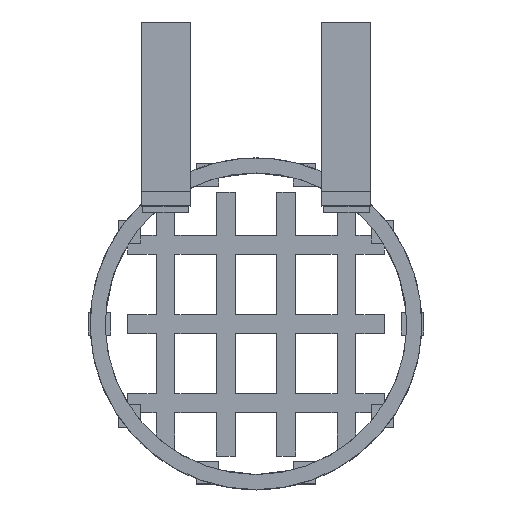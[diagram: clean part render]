
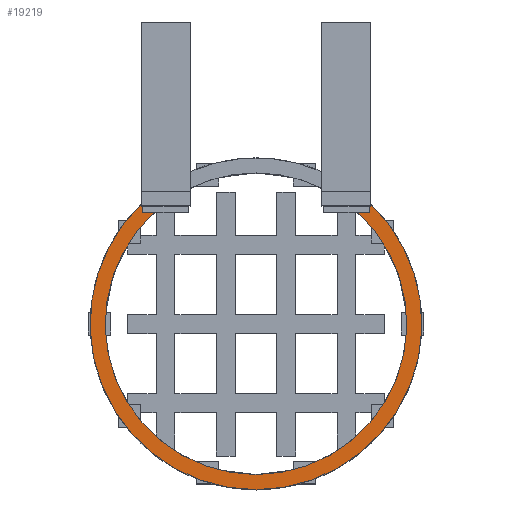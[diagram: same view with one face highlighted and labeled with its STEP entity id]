
A CAD part, top view. The second image highlights one B-rep face of the part: STEP entity #19219.
In plain terms, the highlighted planar face has unit normal (0, 0, 1).
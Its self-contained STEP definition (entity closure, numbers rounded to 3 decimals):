
#33 = CYLINDRICAL_SURFACE('',#34,44.);
#34 = AXIS2_PLACEMENT_3D('',#35,#36,#37);
#35 = CARTESIAN_POINT('',(0.,-118.,-9.));
#36 = DIRECTION('',(-0.,-0.,-1.));
#37 = DIRECTION('',(1.,0.,0.));
#171 = VERTEX_POINT('',#172);
#172 = CARTESIAN_POINT('',(30.,-85.813,-2.));
#185 = PLANE('',#186);
#186 = AXIS2_PLACEMENT_3D('',#187,#188,#189);
#187 = CARTESIAN_POINT('',(30.,-88.5,-19.5));
#188 = DIRECTION('',(1.,0.,0.));
#189 = DIRECTION('',(0.,0.,1.));
#197 = EDGE_CURVE('',#171,#198,#200,.T.);
#198 = VERTEX_POINT('',#199);
#199 = CARTESIAN_POINT('',(-30.,-85.813,-2.));
#200 = SURFACE_CURVE('',#201,(#206,#213),.PCURVE_S1.);
#201 = CIRCLE('',#202,44.);
#202 = AXIS2_PLACEMENT_3D('',#203,#204,#205);
#203 = CARTESIAN_POINT('',(0.,-118.,-2.));
#204 = DIRECTION('',(0.,0.,-1.));
#205 = DIRECTION('',(0.682,0.732,0.));
#206 = PCURVE('',#33,#207);
#207 = DEFINITIONAL_REPRESENTATION('',(#208),#212);
#208 = LINE('',#209,#210);
#209 = CARTESIAN_POINT('',(-0.821,-7.));
#210 = VECTOR('',#211,1.);
#211 = DIRECTION('',(1.,-0.));
#212 = ( GEOMETRIC_REPRESENTATION_CONTEXT(2) 
PARAMETRIC_REPRESENTATION_CONTEXT() REPRESENTATION_CONTEXT('2D SPACE',''
  ) );
#213 = PCURVE('',#214,#219);
#214 = PLANE('',#215);
#215 = AXIS2_PLACEMENT_3D('',#216,#217,#218);
#216 = CARTESIAN_POINT('',(0.,-118.,-2.));
#217 = DIRECTION('',(0.,0.,1.));
#218 = DIRECTION('',(1.,0.,-0.));
#219 = DEFINITIONAL_REPRESENTATION('',(#220),#228);
#220 = ( BOUNDED_CURVE() B_SPLINE_CURVE(2,(#221,#222,#223,#224,#225,#226
,#227),.UNSPECIFIED.,.T.,.F.) B_SPLINE_CURVE_WITH_KNOTS((1,2,2,2,2,1),(
    -2.094,0.,2.094,4.189,6.283,
8.378),.UNSPECIFIED.) CURVE() GEOMETRIC_REPRESENTATION_ITEM() 
RATIONAL_B_SPLINE_CURVE((1.,0.5,1.,0.5,1.,0.5,1.)) REPRESENTATION_ITEM(
  '') );
#221 = CARTESIAN_POINT('',(30.,32.187));
#222 = CARTESIAN_POINT('',(85.749,-19.775));
#223 = CARTESIAN_POINT('',(12.875,-42.074));
#224 = CARTESIAN_POINT('',(-60.,-64.374));
#225 = CARTESIAN_POINT('',(-42.875,9.887));
#226 = CARTESIAN_POINT('',(-25.749,84.148));
#227 = CARTESIAN_POINT('',(30.,32.187));
#228 = ( GEOMETRIC_REPRESENTATION_CONTEXT(2) 
PARAMETRIC_REPRESENTATION_CONTEXT() REPRESENTATION_CONTEXT('2D SPACE',''
  ) );
#245 = PLANE('',#246);
#246 = AXIS2_PLACEMENT_3D('',#247,#248,#249);
#247 = CARTESIAN_POINT('',(-30.,-88.5,-19.5));
#248 = DIRECTION('',(1.,0.,0.));
#249 = DIRECTION('',(0.,0.,1.));
#1143 = CYLINDRICAL_SURFACE('',#1144,40.);
#1144 = AXIS2_PLACEMENT_3D('',#1145,#1146,#1147);
#1145 = CARTESIAN_POINT('',(0.,-118.,-9.));
#1146 = DIRECTION('',(-0.,-0.,-1.));
#1147 = DIRECTION('',(1.,0.,0.));
#9907 = PLANE('',#9908);
#9908 = AXIS2_PLACEMENT_3D('',#9909,#9910,#9911);
#9909 = CARTESIAN_POINT('',(-30.,-88.5,-19.5));
#9910 = DIRECTION('',(0.,1.,0.));
#9911 = DIRECTION('',(0.,-0.,1.));
#10015 = VERTEX_POINT('',#10016);
#10016 = CARTESIAN_POINT('',(-27.014,-88.5,-2.));
#10036 = EDGE_CURVE('',#10015,#10037,#10039,.T.);
#10037 = VERTEX_POINT('',#10038);
#10038 = CARTESIAN_POINT('',(-30.,-88.5,-2.));
#10039 = SURFACE_CURVE('',#10040,(#10044,#10051),.PCURVE_S1.);
#10040 = LINE('',#10041,#10042);
#10041 = CARTESIAN_POINT('',(-15.,-88.5,-2.));
#10042 = VECTOR('',#10043,1.);
#10043 = DIRECTION('',(-1.,0.,0.));
#10044 = PCURVE('',#9907,#10045);
#10045 = DEFINITIONAL_REPRESENTATION('',(#10046),#10050);
#10046 = LINE('',#10047,#10048);
#10047 = CARTESIAN_POINT('',(17.5,15.));
#10048 = VECTOR('',#10049,1.);
#10049 = DIRECTION('',(0.,-1.));
#10050 = ( GEOMETRIC_REPRESENTATION_CONTEXT(2) 
PARAMETRIC_REPRESENTATION_CONTEXT() REPRESENTATION_CONTEXT('2D SPACE',''
  ) );
#10051 = PCURVE('',#214,#10052);
#10052 = DEFINITIONAL_REPRESENTATION('',(#10053),#10057);
#10053 = LINE('',#10054,#10055);
#10054 = CARTESIAN_POINT('',(-15.,29.5));
#10055 = VECTOR('',#10056,1.);
#10056 = DIRECTION('',(-1.,0.));
#10057 = ( GEOMETRIC_REPRESENTATION_CONTEXT(2) 
PARAMETRIC_REPRESENTATION_CONTEXT() REPRESENTATION_CONTEXT('2D SPACE',''
  ) );
#11895 = PLANE('',#11896);
#11896 = AXIS2_PLACEMENT_3D('',#11897,#11898,#11899);
#11897 = CARTESIAN_POINT('',(18.,-88.5,-19.5));
#11898 = DIRECTION('',(0.,1.,0.));
#11899 = DIRECTION('',(0.,-0.,1.));
#12008 = VERTEX_POINT('',#12009);
#12009 = CARTESIAN_POINT('',(30.,-88.5,-2.));
#12030 = EDGE_CURVE('',#12008,#12031,#12033,.T.);
#12031 = VERTEX_POINT('',#12032);
#12032 = CARTESIAN_POINT('',(27.014,-88.5,-2.));
#12033 = SURFACE_CURVE('',#12034,(#12038,#12045),.PCURVE_S1.);
#12034 = LINE('',#12035,#12036);
#12035 = CARTESIAN_POINT('',(9.,-88.5,-2.));
#12036 = VECTOR('',#12037,1.);
#12037 = DIRECTION('',(-1.,0.,0.));
#12038 = PCURVE('',#11895,#12039);
#12039 = DEFINITIONAL_REPRESENTATION('',(#12040),#12044);
#12040 = LINE('',#12041,#12042);
#12041 = CARTESIAN_POINT('',(17.5,-9.));
#12042 = VECTOR('',#12043,1.);
#12043 = DIRECTION('',(0.,-1.));
#12044 = ( GEOMETRIC_REPRESENTATION_CONTEXT(2) 
PARAMETRIC_REPRESENTATION_CONTEXT() REPRESENTATION_CONTEXT('2D SPACE',''
  ) );
#12045 = PCURVE('',#214,#12046);
#12046 = DEFINITIONAL_REPRESENTATION('',(#12047),#12051);
#12047 = LINE('',#12048,#12049);
#12048 = CARTESIAN_POINT('',(9.,29.5));
#12049 = VECTOR('',#12050,1.);
#12050 = DIRECTION('',(-1.,0.));
#12051 = ( GEOMETRIC_REPRESENTATION_CONTEXT(2) 
PARAMETRIC_REPRESENTATION_CONTEXT() REPRESENTATION_CONTEXT('2D SPACE',''
  ) );
#18727 = EDGE_CURVE('',#12031,#10015,#18728,.T.);
#18728 = SURFACE_CURVE('',#18729,(#18734,#18741),.PCURVE_S1.);
#18729 = CIRCLE('',#18730,40.);
#18730 = AXIS2_PLACEMENT_3D('',#18731,#18732,#18733);
#18731 = CARTESIAN_POINT('',(0.,-118.,-2.));
#18732 = DIRECTION('',(0.,0.,-1.));
#18733 = DIRECTION('',(0.675,0.738,0.));
#18734 = PCURVE('',#1143,#18735);
#18735 = DEFINITIONAL_REPRESENTATION('',(#18736),#18740);
#18736 = LINE('',#18737,#18738);
#18737 = CARTESIAN_POINT('',(-0.829,-7.));
#18738 = VECTOR('',#18739,1.);
#18739 = DIRECTION('',(1.,-0.));
#18740 = ( GEOMETRIC_REPRESENTATION_CONTEXT(2) 
PARAMETRIC_REPRESENTATION_CONTEXT() REPRESENTATION_CONTEXT('2D SPACE',''
  ) );
#18741 = PCURVE('',#214,#18742);
#18742 = DEFINITIONAL_REPRESENTATION('',(#18743),#18751);
#18743 = ( BOUNDED_CURVE() B_SPLINE_CURVE(2,(#18744,#18745,#18746,#18747
    ,#18748,#18749,#18750),.UNSPECIFIED.,.T.,.F.) 
B_SPLINE_CURVE_WITH_KNOTS((1,2,2,2,2,1),(-2.094,0.,
    2.094,4.189,6.283,8.378),
.UNSPECIFIED.) CURVE() GEOMETRIC_REPRESENTATION_ITEM() 
RATIONAL_B_SPLINE_CURVE((1.,0.5,1.,0.5,1.,0.5,1.)) REPRESENTATION_ITEM(
  '') );
#18744 = CARTESIAN_POINT('',(27.014,29.5));
#18745 = CARTESIAN_POINT('',(78.109,-17.289));
#18746 = CARTESIAN_POINT('',(12.041,-38.145));
#18747 = CARTESIAN_POINT('',(-54.028,-59.));
#18748 = CARTESIAN_POINT('',(-39.055,8.645));
#18749 = CARTESIAN_POINT('',(-24.082,76.289));
#18750 = CARTESIAN_POINT('',(27.014,29.5));
#18751 = ( GEOMETRIC_REPRESENTATION_CONTEXT(2) 
PARAMETRIC_REPRESENTATION_CONTEXT() REPRESENTATION_CONTEXT('2D SPACE',''
  ) );
#19197 = EDGE_CURVE('',#12008,#171,#19198,.T.);
#19198 = SURFACE_CURVE('',#19199,(#19203,#19210),.PCURVE_S1.);
#19199 = LINE('',#19200,#19201);
#19200 = CARTESIAN_POINT('',(30.,-103.25,-2.));
#19201 = VECTOR('',#19202,1.);
#19202 = DIRECTION('',(0.,1.,0.));
#19203 = PCURVE('',#185,#19204);
#19204 = DEFINITIONAL_REPRESENTATION('',(#19205),#19209);
#19205 = LINE('',#19206,#19207);
#19206 = CARTESIAN_POINT('',(17.5,14.75));
#19207 = VECTOR('',#19208,1.);
#19208 = DIRECTION('',(0.,-1.));
#19209 = ( GEOMETRIC_REPRESENTATION_CONTEXT(2) 
PARAMETRIC_REPRESENTATION_CONTEXT() REPRESENTATION_CONTEXT('2D SPACE',''
  ) );
#19210 = PCURVE('',#214,#19211);
#19211 = DEFINITIONAL_REPRESENTATION('',(#19212),#19216);
#19212 = LINE('',#19213,#19214);
#19213 = CARTESIAN_POINT('',(30.,14.75));
#19214 = VECTOR('',#19215,1.);
#19215 = DIRECTION('',(0.,1.));
#19216 = ( GEOMETRIC_REPRESENTATION_CONTEXT(2) 
PARAMETRIC_REPRESENTATION_CONTEXT() REPRESENTATION_CONTEXT('2D SPACE',''
  ) );
#19219 = ADVANCED_FACE('',(#19220),#214,.T.);
#19220 = FACE_BOUND('',#19221,.T.);
#19221 = EDGE_LOOP('',(#19222,#19243,#19244,#19245,#19246,#19247));
#19222 = ORIENTED_EDGE('',*,*,#19223,.T.);
#19223 = EDGE_CURVE('',#10037,#198,#19224,.T.);
#19224 = SURFACE_CURVE('',#19225,(#19229,#19236),.PCURVE_S1.);
#19225 = LINE('',#19226,#19227);
#19226 = CARTESIAN_POINT('',(-30.,-103.25,-2.));
#19227 = VECTOR('',#19228,1.);
#19228 = DIRECTION('',(0.,1.,0.));
#19229 = PCURVE('',#214,#19230);
#19230 = DEFINITIONAL_REPRESENTATION('',(#19231),#19235);
#19231 = LINE('',#19232,#19233);
#19232 = CARTESIAN_POINT('',(-30.,14.75));
#19233 = VECTOR('',#19234,1.);
#19234 = DIRECTION('',(0.,1.));
#19235 = ( GEOMETRIC_REPRESENTATION_CONTEXT(2) 
PARAMETRIC_REPRESENTATION_CONTEXT() REPRESENTATION_CONTEXT('2D SPACE',''
  ) );
#19236 = PCURVE('',#245,#19237);
#19237 = DEFINITIONAL_REPRESENTATION('',(#19238),#19242);
#19238 = LINE('',#19239,#19240);
#19239 = CARTESIAN_POINT('',(17.5,14.75));
#19240 = VECTOR('',#19241,1.);
#19241 = DIRECTION('',(0.,-1.));
#19242 = ( GEOMETRIC_REPRESENTATION_CONTEXT(2) 
PARAMETRIC_REPRESENTATION_CONTEXT() REPRESENTATION_CONTEXT('2D SPACE',''
  ) );
#19243 = ORIENTED_EDGE('',*,*,#197,.F.);
#19244 = ORIENTED_EDGE('',*,*,#19197,.F.);
#19245 = ORIENTED_EDGE('',*,*,#12030,.T.);
#19246 = ORIENTED_EDGE('',*,*,#18727,.T.);
#19247 = ORIENTED_EDGE('',*,*,#10036,.T.);
